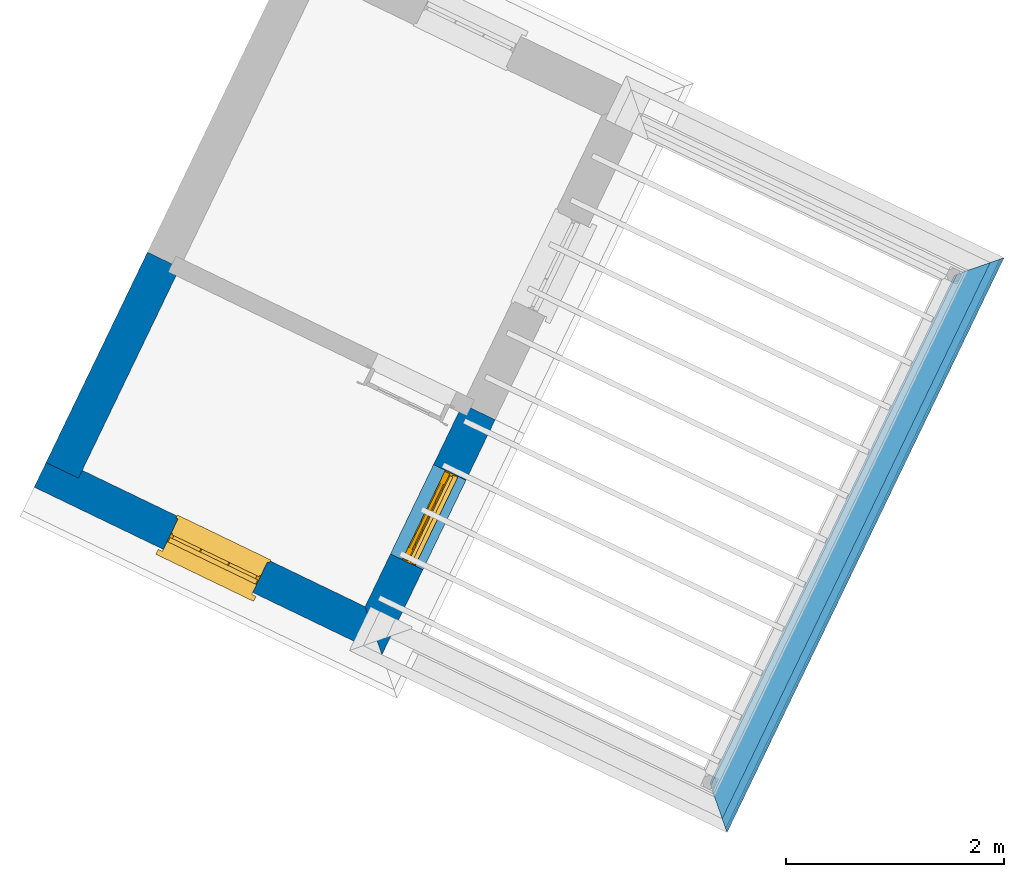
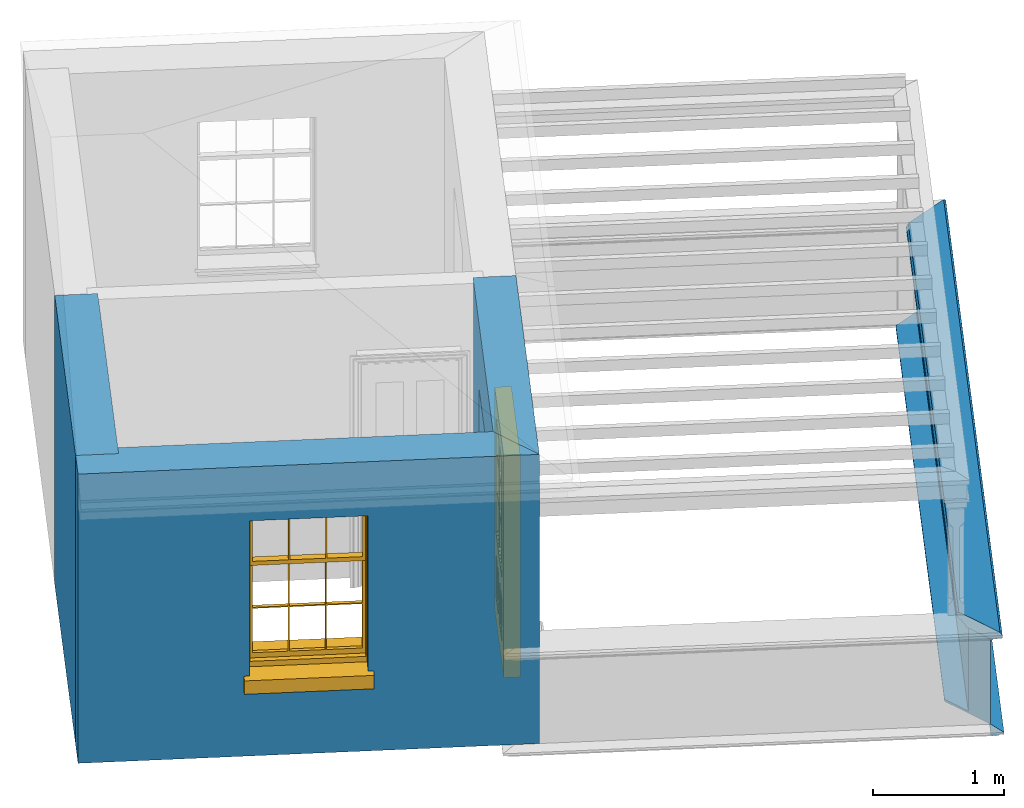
# One storey, part 2 of 4: 6 walls, 1 door, 1 window, 2 openings.
"""IFC4 building model written with IfcOpenShell, lengths in metres."""

from ifc_helpers import new_model, si_unit, frame, origin, origin_with_axes, place, context, subcontext, project, spatial, polyline, outline, extrude, clip, halfspace, faceted_brep, source, transform, mapped, material, layer, layer_set, layer_usage, material_profile, profile_set, profile_usage, type_object, type_shapes, element, fill, save


model = new_model("IFC4")

# Units and contexts
model_context = context("Model", 3, world=origin_with_axes())
body_context = subcontext(model_context, "Body", "Model", "MODEL_VIEW")
ifc_project = project(units=[si_unit("PLANEANGLEUNIT", "RADIAN"), si_unit("MASSUNIT", "GRAM", prefix="KILO"), si_unit("FORCEUNIT", "NEWTON", prefix="KILO"), si_unit("LENGTHUNIT", "METRE"), si_unit("AREAUNIT", "SQUARE_METRE"), si_unit("VOLUMEUNIT", "CUBIC_METRE")], contexts=[model_context, model_context])

# Sites, building, storey
site_1_placement = place(None, origin_with_axes())
site_1 = spatial("IfcSite", under=ifc_project, at=site_1_placement, Name="Tamar")
site_2_placement = place(site_1_placement, origin_with_axes())
site_2 = spatial("IfcSite", under=site_1, at=site_2_placement, Name="Site plot-2", CompositionType="ELEMENT")
building_placement = place(None, origin_with_axes())
building = spatial("IfcBuilding", under=site_2, at=building_placement, Name="Building plot-2", CompositionType="ELEMENT")
storey_placement = place(None, frame((0.0, 0.0, 31.55), z_axis=(0.0, 0.0, 1.0), x_axis=(1.0, 0.0, 0.0)))
storey = spatial("IfcBuildingStorey", under=building, at=storey_placement, Name="plot-2 2", CompositionType="ELEMENT", Elevation=31.55)

# Wall, opening, window
ifc_material_1 = material(Name="Masonry")
ifc_layer_1 = layer(ifc_material_1, 0.33, ventilated=False)
ifc_layer_set_1 = layer_set([ifc_layer_1], Name="exterior_0.08_0.25")
ifc_layer_usage_1 = layer_usage(ifc_layer_set_1, "AXIS2", "POSITIVE", -0.25)
wall_type_1 = type_object("IfcWallType", Name="exterior_0.08_0.25", PredefinedType="SOLIDWALL", material=ifc_layer_set_1)
wall_1_placement = place(storey_placement, frame((227.717232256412, 291.308929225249, 0.0), z_axis=(0.0, 0.0, 1.0), x_axis=(0.900856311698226, -0.434117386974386, 0.0)))
wall_1 = element("IfcWall", 1, at=wall_1_placement, inside=storey, type_object=wall_type_1, material=ifc_layer_usage_1, Name="exterior", context=body_context, shape_type="SweptSolid", body=[
    extrude(outline(polyline([(-0.250000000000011, 0.0800000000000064), (-0.250000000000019, -0.250000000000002), (3.28765432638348, -0.249999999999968), (2.9576543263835, 0.0799999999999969), (-0.250000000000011, 0.0800000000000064)])), origin_with_axes(), (0.0, 0.0, 1.0), 2.7),
])
opening_1_placement = place(wall_1_placement, frame((1.06382716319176, 0.0, 0.749999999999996)))
opening_1 = element("IfcOpeningElement", 2, at=opening_1_placement, cuts=wall_1, Name="My Opening", ObjectType="Opening", context=body_context, shape_type="SweptSolid", body=[
    extrude(outline(polyline([(0.0, -0.269999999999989), (0.909999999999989, -0.27), (0.909999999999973, 1.10000000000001), (-1.62092561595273e-14, 1.10000000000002), (0.0, -0.269999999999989)])), origin_with_axes(), (0.0, 0.0, 1.0), 1.445),
])
window_type = type_object("IfcWindowType", Name="sash_shorter", PartitioningType="DOUBLE_PANEL_HORIZONTAL", PredefinedType="NOTDEFINED")
shared_shape_1 = source(origin(), body_context, "Body", "Brep", [
    faceted_brep([(0.876875, 0.145, 0.999097), (0.876875, 0.145, 1.411875), (0.9, 0.145, 1.435), (0.033125, 0.145, 1.411875), (0.033125, 0.145, 0.999097), (0.01, 0.145, 1.435), (0.033125, 0.115, 1.411875), (0.01, 0.115, 1.435), (0.033125, 0.115, 0.999097), (0.876875, 0.115, 1.411875), (0.876875, 0.115, 0.999097), (0.9, 0.115, 1.435), (0.033125, 0.145, 0.960972), (0.01, 0.145, 0.960972), (0.033125, 0.145, 0.548195), (0.876875, 0.145, 0.960972), (0.876875, 0.145, 0.548195), (0.9, 0.145, 0.960972), (0.876875, 0.145, 0.538195), (0.876875, 0.145, 0.125417), (0.9, 0.145, 0.077167), (0.033125, 0.145, 0.125417), (0.033125, 0.145, 0.538195), (0.01, 0.145, 0.077167), (0.9, 0.115, 0.960972), (0.01, 0.115, 0.960972), (-0.0425, 0.0, 0.01), (-0.0425, -0.05, 0.001667), (0.0, 0.0, 0.01), (0.9525, 0.0, 0.01), (0.91, 0.0, 0.01), (0.9525, -0.05, 0.001667), (-0.02, 0.33, 0.077167), (0.0, 0.33, 0.077167), (-0.02, 0.36, 0.077167), (0.0, 0.19, 0.077167), (0.01, 0.19, 0.077167), (0.91, 0.19, 0.077167), (0.91, 0.33, 0.077167), (0.9, 0.19, 0.077167), (0.93, 0.33, 0.077167), (0.93, 0.36, 0.077167), (0.01, 0.145, 0.999097), (0.01, 0.175, 0.999097), (0.9, 0.145, 0.999097), (0.9, 0.175, 0.999097), (0.876875, 0.175, 0.125417), (0.876875, 0.175, 0.538195), (0.9, 0.175, 0.077167), (0.876875, 0.175, 0.548195), (0.876875, 0.175, 0.960972), (0.033125, 0.175, 0.125417), (0.01, 0.175, 0.077167), (0.033125, 0.175, 0.538195), (0.033125, 0.175, 0.960972), (0.033125, 0.175, 0.548195), (-0.02, 0.33, 0.052167), (-0.02, 0.36, 0.052167), (0.93, 0.36, 0.052167), (0.93, 0.33, 0.052167), (0.91, 0.33, 0.052167), (0.0, 0.33, 0.052167), (0.91, 0.1, 0.026667), (0.0, 0.1, 0.026667), (-0.0425, -0.05, -0.123333), (0.9525, -0.05, -0.123333), (-0.0425, 0.0, -0.123333), (0.9525, 0.0, -0.123333), (0.01, 0.19, 1.435), (0.9, 0.19, 1.435), (0.0, 0.19, 1.445), (0.91, 0.19, 1.445), (0.01, 0.1, 0.077167), (0.9, 0.1, 0.077167), (0.592292, 0.145, 0.125417), (0.592292, 0.175, 0.125417), (0.317708, 0.175, 0.125417), (0.317708, 0.145, 0.125417), (0.592292, 0.145, 0.548195), (0.317708, 0.145, 0.548195), (0.317708, 0.145, 0.538195), (0.592292, 0.145, 0.538195), (0.592292, 0.175, 0.548195), (0.317708, 0.175, 0.548195), (0.602292, 0.175, 0.548195), (0.602292, 0.145, 0.548195), (0.317708, 0.175, 0.538195), (0.307708, 0.175, 0.125417), (0.307708, 0.175, 0.538195), (0.602292, 0.175, 0.538195), (0.602292, 0.175, 0.125417), (0.592292, 0.175, 0.538195), (0.307708, 0.175, 0.548195), (0.317708, 0.175, 0.960972), (0.307708, 0.175, 0.960972), (0.602292, 0.175, 0.960972), (0.592292, 0.175, 0.960972), (0.307708, 0.145, 0.538195), (0.307708, 0.145, 0.125417), (0.307708, 0.145, 0.548195), (0.307708, 0.145, 0.960972), (0.592292, 0.145, 0.960972), (0.317708, 0.145, 0.960972), (0.602292, 0.145, 0.960972), (0.602292, 0.145, 0.538195), (0.602292, 0.145, 0.125417), (0.317708, 0.115, 1.411875), (0.307708, 0.115, 1.411875), (0.307708, 0.115, 0.999097), (0.317708, 0.115, 0.999097), (0.602292, 0.115, 1.411875), (0.592292, 0.115, 1.411875), (0.592292, 0.115, 0.999097), (0.602292, 0.115, 0.999097), (0.317708, 0.145, 0.999097), (0.307708, 0.145, 0.999097), (0.307708, 0.145, 1.411875), (0.317708, 0.145, 1.411875), (0.602292, 0.145, 0.999097), (0.592292, 0.145, 0.999097), (0.592292, 0.145, 1.411875), (0.602292, 0.145, 1.411875), (0.91, 0.1, 1.445), (0.9, 0.1, 1.435), (0.01, 0.1, 1.435), (0.0, 0.1, 1.445), (0.91, 0.0, 0.0), (0.0, 0.0, 0.0), (0.91, 0.33, 0.0), (0.0, 0.33, 0.0)], [[[0, 1, 2]], [[3, 4, 5]], [[6, 7, 8]], [[9, 10, 11]], [[12, 13, 14]], [[15, 16, 17]], [[18, 19, 20]], [[21, 22, 23]], [[24, 15, 17]], [[13, 12, 25]], [[26, 27, 28]], [[29, 30, 31]], [[32, 33, 34]], [[35, 36, 33]], [[37, 38, 39]], [[40, 41, 38]], [[42, 4, 43]], [[44, 45, 0]], [[46, 47, 48]], [[49, 50, 45]], [[51, 52, 53]], [[54, 55, 43]], [[38, 33, 36, 39]], [[41, 34, 33, 38]], [[56, 32, 34, 57]], [[57, 34, 41, 58]], [[58, 41, 40, 59]], [[57, 58, 60, 61]], [[52, 48, 39, 36]], [[62, 63, 28, 30]], [[27, 31, 30, 28]], [[27, 64, 65, 31]], [[66, 67, 65, 64]], [[2, 5, 68, 69]], [[68, 70, 71, 69]], [[20, 23, 72, 73]], [[73, 72, 63, 62]], [[74, 75, 76, 77]], [[78, 79, 80, 81]], [[78, 82, 83, 79]], [[16, 49, 84, 85]], [[86, 76, 87, 88]], [[89, 90, 75, 91]], [[92, 88, 53, 55]], [[82, 91, 86, 83]], [[93, 83, 92, 94]], [[95, 84, 82, 96]], [[89, 84, 49, 47]], [[97, 88, 87, 98]], [[22, 53, 88, 97]], [[81, 91, 75, 74]], [[80, 86, 91, 81]], [[77, 76, 86, 80]], [[99, 92, 55, 14]], [[100, 94, 92, 99]], [[101, 96, 82, 78]], [[79, 83, 93, 102]], [[85, 84, 95, 103]], [[104, 89, 47, 18]], [[105, 90, 89, 104]], [[104, 18, 16, 85]], [[80, 97, 98, 77]], [[104, 81, 74, 105]], [[103, 101, 78, 85]], [[99, 14, 22, 97]], [[102, 100, 99, 79]], [[106, 107, 108, 109]], [[110, 111, 112, 113]], [[114, 115, 116, 117]], [[118, 119, 120, 121]], [[107, 116, 115, 108]], [[111, 120, 119, 112]], [[109, 114, 117, 106]], [[113, 118, 121, 110]], [[85, 78, 81, 104]], [[84, 89, 91, 82]], [[83, 86, 88, 92]], [[79, 99, 97, 80]], [[109, 112, 119, 114]], [[102, 93, 96, 101]], [[106, 117, 120, 111]], [[98, 87, 51, 21]], [[6, 3, 116, 107]], [[110, 121, 1, 9]], [[19, 46, 90, 105]], [[26, 66, 64, 27]], [[29, 31, 65, 67]], [[25, 24, 112, 109]], [[11, 7, 106, 111]], [[75, 48, 52, 76]], [[43, 45, 96, 93]], [[45, 43, 114, 119]], [[5, 2, 120, 117]], [[24, 25, 102, 101]], [[42, 5, 4]], [[2, 44, 0]], [[49, 45, 48, 47]], [[52, 43, 55, 53]], [[14, 13, 23, 22]], [[20, 17, 16, 18]], [[24, 11, 10]], [[25, 8, 7]], [[8, 4, 3, 6]], [[9, 1, 0, 10]], [[15, 50, 49, 16]], [[18, 47, 46, 19]], [[21, 51, 53, 22]], [[14, 55, 54, 12]], [[44, 2, 69, 45]], [[68, 5, 42, 43]], [[36, 35, 70, 68]], [[39, 69, 71, 37]], [[62, 122, 123, 73]], [[63, 72, 124, 125]], [[8, 108, 115, 4]], [[113, 10, 0, 118]], [[94, 100, 12, 54]], [[17, 20, 73, 24]], [[72, 23, 13, 25]], [[52, 36, 68, 43]], [[69, 39, 48, 45]], [[11, 24, 73, 123]], [[7, 124, 72, 25]], [[23, 77, 98]], [[98, 21, 23]], [[105, 74, 20]], [[20, 19, 105]], [[20, 74, 77, 23]], [[113, 112, 24]], [[24, 10, 113]], [[25, 109, 108]], [[108, 8, 25]], [[110, 9, 11]], [[11, 111, 110]], [[7, 6, 107]], [[107, 106, 7]], [[5, 117, 116]], [[116, 3, 5]], [[121, 120, 2]], [[2, 1, 121]], [[11, 123, 124, 7]], [[122, 125, 124, 123]], [[43, 93, 94]], [[94, 54, 43]], [[96, 45, 95]], [[50, 95, 45]], [[15, 103, 95, 50]], [[48, 75, 90]], [[90, 46, 48]], [[87, 76, 52]], [[52, 51, 87]], [[103, 15, 24]], [[24, 101, 103]], [[100, 102, 25]], [[25, 12, 100]], [[115, 114, 43]], [[43, 4, 115]], [[118, 0, 45]], [[45, 119, 118]], [[71, 70, 125, 122]], [[70, 35, 63, 125]], [[122, 62, 37, 71]], [[126, 67, 66, 127]], [[60, 58, 59]], [[38, 60, 59, 40]], [[61, 56, 57]], [[32, 56, 61, 33]], [[61, 60, 128, 129]], [[62, 60, 38, 37]], [[126, 128, 60, 62]], [[33, 61, 63, 35]], [[61, 129, 127, 63]], [[128, 126, 127, 129]], [[28, 127, 66, 26]], [[63, 127, 28]], [[29, 67, 126, 30]], [[30, 126, 62]]]),
])
type_shapes(window_type, [shared_shape_1])
window_placement = place(storey_placement, frame((228.558375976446, 290.603872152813, 0.749999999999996), z_axis=(0.0, 0.0, 1.0), x_axis=(0.819779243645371, -0.395046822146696, 0.0)))
window = element("IfcWindow", 3, at=window_placement, inside=storey, type_object=window_type, Name="circulation outside window", OverallHeight=1.445, OverallWidth=0.91, context=body_context, shape_type="MappedRepresentation", body=[
    mapped(shared_shape_1, transform((0.0, 0.0, 0.0), scale=1.0)),
])
fill(opening_1, window)

# Wall, opening, door
wall_2_placement = place(storey_placement, frame((230.453722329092, 289.990230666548, 0.0), z_axis=(0.0, 0.0, 1.0), x_axis=(0.434117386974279, 0.900856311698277, 0.0)))
wall_2 = element("IfcWall", 4, at=wall_2_placement, inside=storey, type_object=wall_type_1, material=ifc_layer_usage_1, Name="exterior", context=body_context, shape_type="SweptSolid", body=[
    extrude(outline(polyline([(0.0800000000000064, 0.0799999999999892), (-0.249999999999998, -0.249999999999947), (2.14111007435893, -0.249999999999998), (2.14111007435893, 0.0799999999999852), (0.0800000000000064, 0.0799999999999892)])), origin_with_axes(), (0.0, 0.0, 1.0), 2.7),
])
opening_2_placement = place(wall_2_placement, frame((0.615555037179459, 0.0, 0.0199999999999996)))
opening_2 = element("IfcOpeningElement", 5, at=opening_2_placement, cuts=wall_2, Name="My Opening", ObjectType="Opening", context=body_context, shape_type="SweptSolid", body=[
    extrude(outline(polyline([(0.0, -0.270000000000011), (0.910000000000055, -0.270000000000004), (0.910000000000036, 1.10000000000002), (-1.83186799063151e-14, 1.10000000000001), (0.0, -0.270000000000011)])), origin_with_axes(), (0.0, 0.0, 1.0), 2.08),
])
door_type = type_object("IfcDoorType", Name="door_panelled", OperationType="SINGLE_SWING_LEFT", PredefinedType="NOTDEFINED")
shared_shape_2 = source(origin(), body_context, "Body", "Brep", [
    faceted_brep([(0.545, 0.195, 0.265), (0.745, 0.195, 0.265), (0.745, 0.2, 0.265), (0.545, 0.2, 0.265), (0.745, 0.2, 0.58), (0.545, 0.2, 0.58), (0.545, 0.195, 0.58), (0.515, 0.19, 0.235), (0.775, 0.19, 0.235), (0.745, 0.195, 0.58), (0.515, 0.19, 0.61), (0.515, 0.185, 0.235), (0.775, 0.185, 0.235), (0.775, 0.19, 0.61), (0.515, 0.185, 0.61), (0.785, 0.185, 0.225), (0.505, 0.185, 0.225), (0.775, 0.185, 0.61), (0.505, 0.185, 0.62), (0.785, 0.185, 0.62), (0.505, 0.18, 0.225), (0.785, 0.18, 0.225), (0.505, 0.18, 0.62), (0.785, 0.18, 0.62), (0.883, 0.18, 0.075), (0.898, 0.18, 0.075), (0.405, 0.18, 0.62), (0.405, 0.18, 0.225), (0.027, 0.18, 0.075), (0.785, 0.18, 0.82), (0.125, 0.18, 0.82), (0.405, 0.185, 0.62), (0.405, 0.185, 0.225), (0.898, 0.18, 2.068), (0.027, 0.17, 0.075), (0.883, 0.17, 0.075), (0.125, 0.18, 0.225), (0.012, 0.18, 0.075), (0.785, 0.19, 0.82), (0.125, 0.19, 0.82), (0.125, 0.18, 0.62), (0.125, 0.185, 0.62), (0.395, 0.185, 0.61), (0.395, 0.185, 0.235), (0.125, 0.185, 0.225), (0.785, 0.18, 1.895), (0.027, 0.14, 0.045), (0.883, 0.14, 0.045), (0.558333, 0.19, 0.83), (0.351667, 0.19, 0.83), (0.125, 0.18, 1.895), (0.125, 0.19, 1.895), (0.785, 0.19, 1.895), (0.012, 0.18, 2.068), (0.135, 0.185, 0.61), (0.395, 0.19, 0.61), (0.395, 0.19, 0.235), (0.135, 0.185, 0.235), (0.027, 0.14, 0.027), (0.883, 0.14, 0.027), (0.568333, 0.19, 0.83), (0.558333, 0.22, 0.83), (0.351667, 0.22, 0.83), (0.341667, 0.19, 0.83), (0.135, 0.19, 1.185), (0.135, 0.19, 1.53), (0.775, 0.19, 1.53), (0.775, 0.19, 1.185), (0.135, 0.19, 0.61), (0.365, 0.195, 0.58), (0.365, 0.195, 0.265), (0.135, 0.19, 0.235), (0.568333, 0.19, 1.175), (0.558333, 0.19, 1.175), (0.775, 0.19, 0.83), (0.558333, 0.22, 1.175), (0.785, 0.22, 0.82), (0.125, 0.22, 0.82), (0.351667, 0.22, 1.175), (0.351667, 0.19, 1.175), (0.341667, 0.19, 1.175), (0.135, 0.19, 0.83), (0.135, 0.19, 1.175), (0.135, 0.22, 1.185), (0.135, 0.22, 1.53), (0.135, 0.19, 1.54), (0.351667, 0.19, 1.885), (0.558333, 0.19, 1.885), (0.775, 0.22, 1.53), (0.775, 0.22, 1.185), (0.775, 0.19, 1.175), (0.775, 0.19, 1.54), (0.165, 0.195, 0.58), (0.365, 0.2, 0.58), (0.365, 0.2, 0.265), (0.165, 0.195, 0.265), (0.568333, 0.22, 0.83), (0.568333, 0.22, 1.175), (0.568333, 0.19, 1.185), (0.558333, 0.19, 1.185), (0.775, 0.22, 0.83), (0.785, 0.23, 0.82), (0.125, 0.23, 0.82), (0.341667, 0.22, 0.83), (0.341667, 0.22, 1.175), (0.351667, 0.19, 1.185), (0.341667, 0.19, 1.185), (0.135, 0.22, 0.83), (0.341667, 0.22, 1.185), (0.125, 0.22, 1.895), (0.341667, 0.22, 1.53), (0.341667, 0.19, 1.53), (0.135, 0.19, 1.885), (0.341667, 0.19, 1.54), (0.341667, 0.19, 1.885), (0.558333, 0.22, 1.885), (0.351667, 0.22, 1.885), (0.568333, 0.19, 1.885), (0.785, 0.22, 1.895), (0.568333, 0.22, 1.185), (0.568333, 0.19, 1.53), (0.568333, 0.22, 1.53), (0.568333, 0.19, 1.54), (0.775, 0.19, 1.885), (0.165, 0.2, 0.58), (0.165, 0.2, 0.265), (0.775, 0.22, 1.175), (0.558333, 0.19, 1.53), (0.351667, 0.22, 1.185), (0.558333, 0.22, 1.185), (0.505, 0.23, 0.62), (0.405, 0.23, 0.62), (0.125, 0.23, 1.895), (0.785, 0.23, 1.895), (0.351667, 0.19, 1.53), (0.135, 0.22, 1.175), (0.135, 0.22, 1.54), (0.341667, 0.22, 1.54), (0.135, 0.22, 1.885), (0.351667, 0.19, 1.54), (0.558333, 0.22, 1.54), (0.558333, 0.19, 1.54), (0.351667, 0.22, 1.54), (0.775, 0.22, 1.54), (0.568333, 0.22, 1.54), (0.775, 0.22, 1.885), (0.558333, 0.22, 1.53), (0.405, 0.23, 0.225), (0.505, 0.23, 0.225), (0.125, 0.23, 0.62), (0.785, 0.23, 0.62), (0.012, 0.23, 2.068), (0.898, 0.23, 2.068), (0.351667, 0.22, 1.53), (0.341667, 0.22, 1.885), (0.568333, 0.22, 1.885), (0.405, 0.225, 0.225), (0.405, 0.225, 0.62), (0.505, 0.225, 0.62), (0.505, 0.225, 0.225), (0.898, 0.23, 0.027), (0.012, 0.23, 0.027), (0.125, 0.225, 0.62), (0.785, 0.225, 0.62), (0.395, 0.225, 0.235), (0.395, 0.225, 0.61), (0.125, 0.23, 0.225), (0.125, 0.225, 0.225), (0.515, 0.225, 0.61), (0.515, 0.225, 0.235), (0.785, 0.23, 0.225), (0.785, 0.225, 0.225), (0.135, 0.225, 0.61), (0.775, 0.225, 0.61), (0.135, 0.225, 0.235), (0.395, 0.22, 0.235), (0.395, 0.22, 0.61), (0.515, 0.22, 0.61), (0.515, 0.22, 0.235), (0.775, 0.225, 0.235), (0.135, 0.22, 0.61), (0.775, 0.22, 0.61), (0.135, 0.22, 0.235), (0.365, 0.215, 0.265), (0.365, 0.215, 0.58), (0.545, 0.215, 0.58), (0.545, 0.215, 0.265), (0.775, 0.22, 0.235), (0.165, 0.215, 0.58), (0.745, 0.215, 0.58), (0.165, 0.215, 0.265), (0.365, 0.21, 0.58), (0.365, 0.21, 0.265), (0.545, 0.21, 0.58), (0.545, 0.21, 0.265), (0.745, 0.215, 0.265), (0.165, 0.21, 0.58), (0.745, 0.21, 0.58), (0.165, 0.21, 0.265), (0.745, 0.21, 0.265), (0.885, 0.178, 0.025), (0.025, 0.178, 0.025), (0.025, 0.15, 0.025), (0.885, 0.15, 0.025), (0.9, 0.23, 0.025), (0.01, 0.23, 0.025), (0.9, 0.178, 0.025), (0.91, 0.23, 0.0), (0.0, 0.23, 0.0), (0.01, 0.178, 0.025), (0.9, 0.178, 2.07), (0.9, 0.23, 2.07), (0.885, 0.178, 2.055), (0.91, 0.23, 2.08), (0.01, 0.23, 2.07), (0.0, 0.23, 2.08), (0.01, 0.178, 2.07), (0.025, 0.178, 2.055), (0.0, 0.1, 2.08), (0.91, 0.1, 2.08), (0.01, 0.1, 2.07), (0.9, 0.1, 2.07), (0.01, 0.15, 2.07), (0.9, 0.15, 2.07), (0.0, 0.1, 0.0), (0.91, 0.1, 0.0), (0.01, 0.1, 0.025), (0.9, 0.1, 0.025), (0.01, 0.15, 0.025), (0.025, 0.15, 2.055), (0.9, 0.15, 0.025), (0.885, 0.15, 2.055), (0.898, 0.18, 0.027), (0.012, 0.18, 0.027), (0.883, 0.18, 0.027), (0.027, 0.18, 0.027)], [[[0, 1, 2, 3]], [[2, 4, 5, 3]], [[0, 3, 5, 6]], [[1, 0, 7, 8]], [[9, 4, 2, 1]], [[9, 6, 5, 4]], [[0, 6, 10, 7]], [[8, 7, 11, 12]], [[8, 13, 9, 1]], [[13, 10, 6, 9]], [[7, 10, 14, 11]], [[15, 12, 11, 16]], [[12, 17, 13, 8]], [[17, 14, 10, 13]], [[18, 16, 11, 14]], [[15, 19, 17, 12]], [[15, 16, 20, 21]], [[14, 17, 19, 18]], [[16, 18, 22, 20]], [[21, 23, 19, 15]], [[24, 25, 21, 20]], [[23, 22, 18, 19]], [[20, 22, 26, 27]], [[23, 21, 25]], [[28, 24, 20, 27]], [[22, 23, 29]], [[29, 30, 26, 22]], [[27, 26, 31, 32]], [[23, 25, 33, 29]], [[34, 35, 24, 28]], [[28, 27, 36, 37]], [[38, 39, 30, 29]], [[26, 30, 40]], [[26, 40, 41, 31]], [[42, 43, 32, 31]], [[32, 44, 36, 27]], [[33, 45, 29]], [[46, 47, 35, 34]], [[36, 40, 37]], [[39, 38, 48, 49]], [[50, 30, 39, 51]], [[29, 45, 52, 38]], [[53, 37, 40, 30]], [[44, 41, 40, 36]], [[31, 41, 54, 42]], [[43, 42, 55, 56]], [[57, 44, 32, 43]], [[50, 45, 33, 53]], [[47, 46, 58, 59]], [[60, 48, 38]], [[49, 48, 61, 62]], [[49, 63, 39]], [[50, 53, 30]], [[51, 39, 64, 65]], [[45, 50, 51, 52]], [[66, 67, 38, 52]], [[57, 54, 41, 44]], [[42, 54, 68, 55]], [[56, 55, 69, 70]], [[56, 71, 57, 43]], [[60, 72, 73, 48]], [[60, 38, 74]], [[48, 73, 75, 61]], [[76, 77, 62, 61]], [[62, 78, 79, 49]], [[49, 79, 80, 63]], [[63, 81, 39]], [[82, 64, 39]], [[65, 64, 83, 84]], [[85, 51, 65]], [[52, 51, 86, 87]], [[88, 89, 67, 66]], [[90, 38, 67]], [[91, 66, 52]], [[71, 68, 54, 57]], [[55, 68, 92, 69]], [[69, 93, 94, 70]], [[70, 95, 71, 56]], [[96, 97, 72, 60]], [[73, 72, 98, 99]], [[74, 38, 90]], [[100, 96, 60, 74]], [[75, 73, 79, 78]], [[61, 75, 97, 96]], [[101, 102, 77, 76]], [[77, 103, 62]], [[96, 76, 61]], [[103, 104, 78, 62]], [[80, 79, 105, 106]], [[63, 80, 104, 103]], [[81, 63, 103, 107]], [[81, 82, 39]], [[106, 64, 82, 80]], [[106, 108, 83, 64]], [[84, 83, 77, 109]], [[110, 111, 65, 84]], [[112, 51, 85]], [[113, 85, 65, 111]], [[114, 86, 51]], [[115, 87, 86, 116]], [[117, 52, 87]], [[118, 76, 89, 88]], [[119, 98, 67, 89]], [[120, 121, 88, 66]], [[67, 98, 72, 90]], [[91, 122, 120, 66]], [[91, 52, 123]], [[95, 92, 68, 71]], [[69, 92, 124, 93]], [[94, 93, 124, 125]], [[94, 125, 95, 70]], [[72, 97, 126, 90]], [[127, 99, 98, 120]], [[99, 105, 79, 73]], [[74, 90, 126, 100]], [[96, 100, 76]], [[128, 129, 75, 78]], [[97, 75, 129, 119]], [[130, 131, 102, 101]], [[109, 77, 102, 132]], [[133, 101, 76, 118]], [[77, 107, 103]], [[78, 104, 108, 128]], [[111, 106, 105, 134]], [[104, 80, 82, 135]], [[107, 135, 82, 81]], [[110, 108, 106, 111]], [[104, 135, 83, 108]], [[83, 135, 77]], [[136, 84, 109]], [[110, 84, 136, 137]], [[114, 51, 112]], [[85, 136, 138, 112]], [[113, 137, 136, 85]], [[111, 134, 139, 113]], [[86, 114, 113, 139]], [[140, 141, 87, 115]], [[139, 142, 116, 86]], [[109, 118, 115, 116]], [[117, 123, 52]], [[117, 87, 141, 122]], [[126, 89, 76]], [[143, 118, 88]], [[120, 98, 119, 121]], [[119, 89, 126, 97]], [[144, 143, 88, 121]], [[144, 122, 91, 143]], [[127, 120, 122, 141]], [[143, 91, 123, 145]], [[124, 92, 95, 125]], [[146, 129, 99, 127]], [[99, 129, 128, 105]], [[100, 126, 76]], [[121, 119, 129, 146]], [[147, 131, 130, 148]], [[131, 149, 102]], [[130, 101, 150]], [[102, 151, 132]], [[118, 109, 132, 133]], [[101, 133, 152]], [[107, 77, 135]], [[153, 128, 108, 110]], [[134, 105, 128, 153]], [[109, 138, 136]], [[153, 110, 137, 142]], [[154, 114, 112, 138]], [[137, 113, 114, 154]], [[141, 139, 134, 127]], [[141, 140, 142, 139]], [[144, 140, 115, 155]], [[142, 137, 154, 116]], [[155, 115, 118]], [[116, 154, 109]], [[117, 155, 145, 123]], [[122, 144, 155, 117]], [[143, 145, 118]], [[121, 146, 140, 144]], [[146, 127, 134, 153]], [[156, 157, 131, 147]], [[148, 130, 158, 159]], [[148, 160, 161, 147]], [[157, 162, 149, 131]], [[161, 151, 102, 149]], [[101, 152, 160, 150]], [[163, 158, 130, 150]], [[151, 152, 133, 132]], [[154, 138, 109]], [[142, 140, 146, 153]], [[145, 155, 118]], [[157, 156, 164, 165]], [[147, 166, 167, 156]], [[168, 169, 159, 158]], [[170, 148, 159, 171]], [[148, 170, 160]], [[166, 147, 161]], [[172, 162, 157, 165]], [[166, 149, 162, 167]], [[166, 161, 149]], [[150, 160, 170]], [[163, 173, 168, 158]], [[171, 163, 150, 170]], [[174, 164, 156, 167]], [[175, 176, 165, 164]], [[169, 168, 177, 178]], [[171, 159, 169, 179]], [[167, 162, 172, 174]], [[176, 180, 172, 165]], [[179, 173, 163, 171]], [[181, 177, 168, 173]], [[164, 174, 182, 175]], [[183, 184, 176, 175]], [[178, 177, 185, 186]], [[179, 169, 178, 187]], [[174, 172, 180, 182]], [[184, 188, 180, 176]], [[187, 181, 173, 179]], [[189, 185, 177, 181]], [[175, 182, 190, 183]], [[191, 184, 183, 192]], [[185, 193, 194, 186]], [[187, 178, 186, 195]], [[182, 180, 188, 190]], [[191, 196, 188, 184]], [[195, 189, 181, 187]], [[197, 193, 185, 189]], [[183, 190, 198, 192]], [[198, 196, 191, 192]], [[194, 193, 197, 199]], [[195, 186, 194, 199]], [[188, 196, 198, 190]], [[197, 189, 195, 199]], [[200, 201, 202, 203]], [[201, 200, 204, 205]], [[206, 204, 200]], [[204, 207, 208, 205]], [[209, 201, 205]], [[210, 211, 204, 206]], [[206, 200, 212, 210]], [[211, 213, 207, 204]], [[214, 205, 208, 215]], [[216, 217, 201, 209]], [[205, 214, 216, 209]], [[216, 214, 211, 210]], [[210, 212, 217, 216]], [[214, 215, 213, 211]], [[218, 219, 213, 215]], [[219, 218, 220, 221]], [[221, 220, 222, 223]], [[215, 208, 224, 218]], [[225, 224, 208, 207]], [[224, 226, 220, 218]], [[224, 225, 227, 226]], [[219, 225, 207, 213]], [[228, 222, 220, 226]], [[219, 221, 227, 225]], [[226, 227, 203, 202]], [[202, 229, 222, 228]], [[228, 226, 202]], [[227, 221, 223, 230]], [[230, 203, 227]], [[217, 229, 202, 201]], [[231, 223, 222, 229]], [[230, 223, 231, 203]], [[231, 229, 217, 212]], [[212, 200, 203, 231]], [[33, 152, 151, 53]], [[25, 160, 152, 33]], [[161, 37, 53, 151]], [[232, 160, 25]], [[161, 233, 37]], [[160, 232, 234]], [[24, 234, 232, 25]], [[233, 161, 235]], [[37, 233, 235, 28]], [[161, 160, 234, 235]], [[35, 47, 234, 24]], [[28, 235, 46, 34]], [[58, 235, 234, 59]], [[59, 234, 47]], [[58, 46, 235]]]),
])
type_shapes(door_type, [shared_shape_2])
door_placement = place(storey_placement, frame((230.96417667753, 290.427545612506, 0.0199999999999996), z_axis=(0.0, 0.0, 1.0), x_axis=(0.395046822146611, 0.819779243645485, 0.0)))
door = element("IfcDoor", 6, at=door_placement, inside=storey, type_object=door_type, Name="circulation outside door", OverallHeight=2.08, OverallWidth=0.91, context=body_context, shape_type="MappedRepresentation", body=[
    mapped(shared_shape_2, transform((0.0, 0.0, 0.0), scale=1.0)),
])
fill(opening_2, door)

# Walls
ifc_material_2 = material(Name="Masonry")
ifc_layer_2 = layer(ifc_material_2, 0.33, ventilated=False)
ifc_layer_set_2 = layer_set([ifc_layer_2], Name="party_0.08_0.25")
ifc_layer_usage_2 = layer_usage(ifc_layer_set_2, "AXIS2", "POSITIVE", -0.25)
wall_type_2 = type_object("IfcWallType", Name="party_0.08_0.25", PredefinedType="SOLIDWALL", material=ifc_layer_set_2)
wall_3_placement = place(storey_placement, frame((228.646725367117, 293.237761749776, 0.0), z_axis=(0.0, 0.0, 1.0), x_axis=(-0.43411738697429, -0.900856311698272, 0.0)))
element("IfcWall", 7, at=wall_3_placement, inside=storey, type_object=wall_type_2, material=ifc_layer_usage_2, Name="party", context=body_context, shape_type="SweptSolid", body=[
    extrude(outline(polyline([(-1.7991426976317e-14, 0.0799999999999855), (-9.64363222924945e-15, -0.249999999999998), (2.14111007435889, -0.249999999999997), (2.14111007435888, 0.0799999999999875), (-1.7991426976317e-14, 0.0799999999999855)])), origin_with_axes(), (0.0, 0.0, 1.0), 2.7),
])
ifc_material_profile_1 = material_profile(None, outline(polyline([(0.25, 0.0), (0.25, 0.795), (0.09, 0.795), (0.09, 0.02), (-0.08, 0.02), (-0.08, 0.0), (0.25, 0.0)])))
ifc_profile_set_1 = profile_set([ifc_material_profile_1])
ifc_profile_usage_1 = profile_usage(ifc_profile_set_1)
wall_type_3 = type_object("IfcWallType", Name="parapet_0", PredefinedType="PARAPET", material=ifc_profile_set_1)
wall_4_placement = place(storey_placement, frame((236.2461268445, 294.034709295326, 0.0), z_axis=(-0.434117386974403, -0.900856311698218, 0.0), x_axis=(0.900856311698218, -0.434117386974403, 0.0)))
element("IfcWall", 8, at=wall_4_placement, inside=storey, type_object=wall_type_3, material=ifc_profile_usage_1, Name="parapet_0", context=body_context, shape_type="Clipping", body=[
    clip(clip(extrude(outline(polyline([(0.25, 0.0), (0.25, 0.795), (0.09, 0.795), (0.09, 0.02), (-0.08, 0.02), (-0.08, 0.0), (0.25, 0.0)])), origin_with_axes(), (0.0, 0.0, 1.0), 7.15807761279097), halfspace(frame((0.0, 0.0, 6.15807761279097), z_axis=(0.707106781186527, 0.0, -0.707106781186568), x_axis=(0.0, 1.0, 0.0)), True)), halfspace(frame((0.0, 0.0, 1.0), z_axis=(-0.707106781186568, 0.0, -0.707106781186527), x_axis=(0.0, 1.0, 0.0)), False)),
])
ifc_material_profile_2 = material_profile(None, outline(polyline([(0.265, 0.795), (0.268, 0.807), (0.274, 0.816), (0.283, 0.822), (0.295, 0.825), (0.295, 0.84), (0.305, 0.84), (0.317, 0.842), (0.326, 0.849), (0.333, 0.858), (0.335, 0.87), (0.333, 0.882), (0.326, 0.891), (0.317, 0.898), (0.305, 0.9), (0.035, 0.9), (0.023, 0.898), (0.014, 0.891), (0.007, 0.882), (0.005, 0.87), (0.007, 0.858), (0.014, 0.849), (0.023, 0.842), (0.035, 0.84), (0.045, 0.84), (0.045, 0.825), (0.057, 0.822), (0.066, 0.816), (0.072, 0.807), (0.075, 0.795), (0.265, 0.795)])))
ifc_profile_set_2 = profile_set([ifc_material_profile_2])
ifc_profile_usage_2 = profile_usage(ifc_profile_set_2)
wall_type_4 = type_object("IfcWallType", Name="parapet_1", PredefinedType="PARAPET", material=ifc_profile_set_2)
wall_5_placement = place(storey_placement, frame((236.2461268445, 294.034709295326, 0.0), z_axis=(-0.434117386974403, -0.900856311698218, 0.0), x_axis=(0.900856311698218, -0.434117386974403, 0.0)))
element("IfcWall", 9, at=wall_5_placement, inside=storey, type_object=wall_type_4, material=ifc_profile_usage_2, Name="parapet_1", context=body_context, shape_type="Clipping", body=[
    clip(clip(extrude(outline(polyline([(0.265, 0.795), (0.268, 0.807), (0.274, 0.816), (0.283, 0.822), (0.295, 0.825), (0.295, 0.84), (0.305, 0.84), (0.317, 0.842), (0.326, 0.849), (0.333, 0.858), (0.335, 0.87), (0.333, 0.882), (0.326, 0.891), (0.317, 0.898), (0.305, 0.9), (0.035, 0.9), (0.023, 0.898), (0.014, 0.891), (0.007, 0.882), (0.005, 0.87), (0.007, 0.858), (0.014, 0.849), (0.023, 0.842), (0.035, 0.84), (0.045, 0.84), (0.045, 0.825), (0.057, 0.822), (0.066, 0.816), (0.072, 0.807), (0.075, 0.795), (0.265, 0.795)])), origin_with_axes(), (0.0, 0.0, 1.0), 7.15807761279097), halfspace(frame((0.0, 0.0, 6.15807761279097), z_axis=(0.707106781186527, 0.0, -0.707106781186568), x_axis=(0.0, 1.0, 0.0)), True)), halfspace(frame((0.0, 0.0, 1.0), z_axis=(-0.707106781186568, 0.0, -0.707106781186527), x_axis=(0.0, 1.0, 0.0)), False)),
])
ifc_material_profile_3 = material_profile(None, outline(polyline([(0.25, -0.1), (0.265, -0.1), (0.265, -0.085), (0.278, -0.084), (0.289, -0.081), (0.301, -0.074), (0.309, -0.065), (0.315, -0.055), (0.324, -0.044), (0.334, -0.038), (0.345, -0.035), (0.345, -0.015), (0.25, 0.0), (0.25, -0.1)])))
ifc_profile_set_3 = profile_set([ifc_material_profile_3])
ifc_profile_usage_3 = profile_usage(ifc_profile_set_3)
wall_type_5 = type_object("IfcWallType", Name="parapet_2", PredefinedType="PARAPET", material=ifc_profile_set_3)
wall_6_placement = place(storey_placement, frame((236.2461268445, 294.034709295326, 0.0), z_axis=(-0.434117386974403, -0.900856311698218, 0.0), x_axis=(0.900856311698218, -0.434117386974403, 0.0)))
element("IfcWall", 10, at=wall_6_placement, inside=storey, type_object=wall_type_5, material=ifc_profile_usage_3, Name="parapet_2", context=body_context, shape_type="Clipping", body=[
    clip(clip(extrude(outline(polyline([(0.25, -0.1), (0.265, -0.1), (0.265, -0.085), (0.278, -0.084), (0.289, -0.081), (0.301, -0.074), (0.309, -0.065), (0.315, -0.055), (0.324, -0.044), (0.334, -0.038), (0.345, -0.035), (0.345, -0.015), (0.25, 0.0), (0.25, -0.1)])), origin_with_axes(), (0.0, 0.0, 1.0), 7.15807761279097), halfspace(frame((0.0, 0.0, 6.15807761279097), z_axis=(0.707106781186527, 0.0, -0.707106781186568), x_axis=(0.0, 1.0, 0.0)), True)), halfspace(frame((0.0, 0.0, 1.0), z_axis=(-0.707106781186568, 0.0, -0.707106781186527), x_axis=(0.0, 1.0, 0.0)), False)),
])

save(model, "model.ifc")
